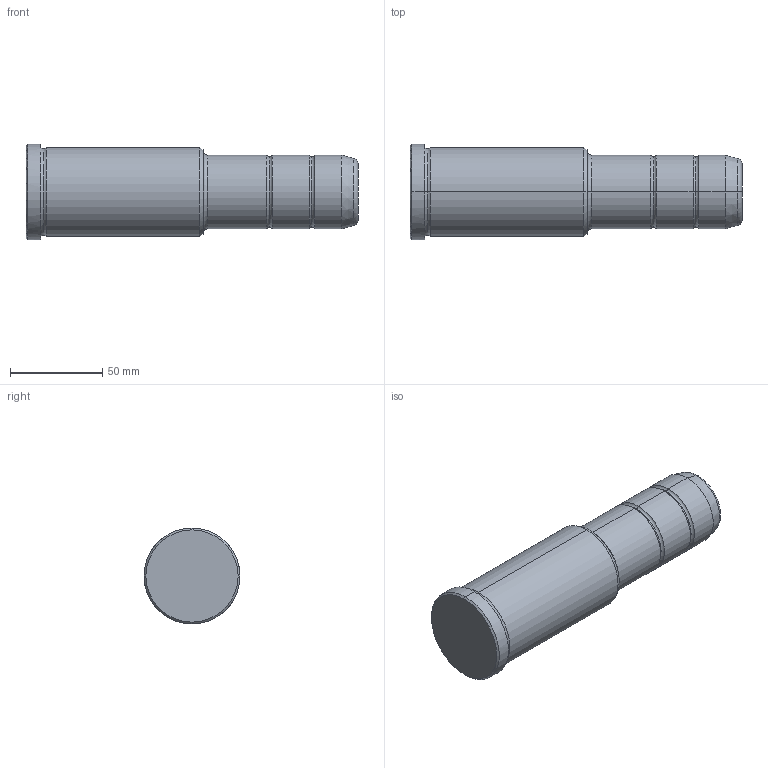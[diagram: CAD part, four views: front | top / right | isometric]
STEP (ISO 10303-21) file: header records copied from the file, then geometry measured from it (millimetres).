
FILE_DESCRIPTION(('CATIA V5 STEP Exchange'),'2;1');
FILE_NAME('C:\Users\Utente\Desktop\IO LAVORO\3D X SITO CF\X SITO\PLASTICA\351\351-40X96X180.stp','2021-10-07T14:10:27+00:00',('none'),('none'),'CATIA Version 5 Release 20 GA (IN-10)','CATIA V5 STEP AP203','none');
FILE_SCHEMA(('CONFIG_CONTROL_DESIGN'));
Length unit declared in the file: millimetre
Products named in the file (1): 351-40X96X180
Bounding box: 180 x 52 x 52 mm (x, y, z)
Volume: 279604.4 mm3; surface area: 28828.1 mm2
Topology: 1 solids, 1 shells, 36 faces, 102 edges, 70 vertices
Faces by surface type: torus 16, cylinder 10, cone 6, plane 4
Entity records: 1292 total; most frequent: CARTESIAN_POINT 321, ORIENTED_EDGE 204, DIRECTION 166, AXIS2_PLACEMENT_3D 115, EDGE_CURVE 102, CIRCLE 78, VERTEX_POINT 70, EDGE_LOOP 38
